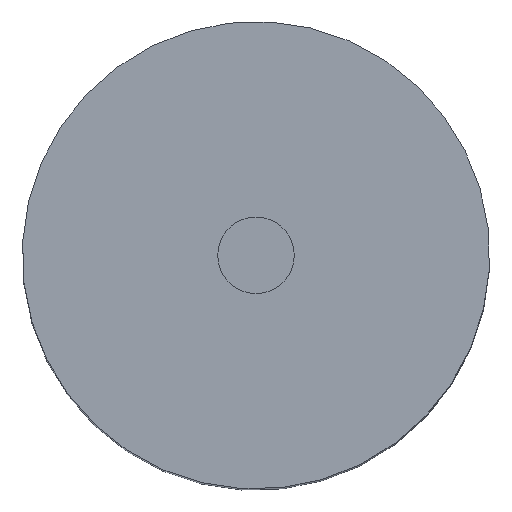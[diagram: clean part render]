
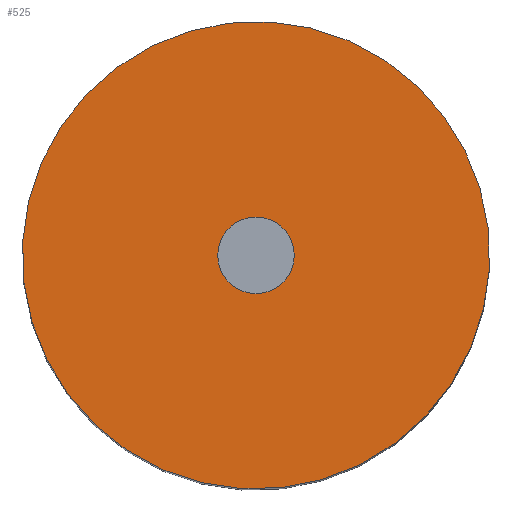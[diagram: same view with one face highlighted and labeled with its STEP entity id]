
A CAD part, top view. The second image highlights one B-rep face of the part: STEP entity #525.
In plain terms, the highlighted planar face has unit normal (0, 0, 1).
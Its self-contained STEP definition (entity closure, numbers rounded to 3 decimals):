
#23=FACE_BOUND('',#118,.T.);
#37=PLANE('',#607);
#75=FACE_OUTER_BOUND('',#117,.T.);
#117=EDGE_LOOP('',(#384));
#118=EDGE_LOOP('',(#385));
#197=CIRCLE('',#597,4.5);
#198=CIRCLE('',#600,27.5);
#242=VERTEX_POINT('',#882);
#243=VERTEX_POINT('',#887);
#291=EDGE_CURVE('',#242,#242,#197,.T.);
#292=EDGE_CURVE('',#243,#243,#198,.T.);
#384=ORIENTED_EDGE('',*,*,#292,.T.);
#385=ORIENTED_EDGE('',*,*,#291,.F.);
#525=ADVANCED_FACE('',(#75,#23),#37,.F.);
#597=AXIS2_PLACEMENT_3D('',#884,#710,#711);
#600=AXIS2_PLACEMENT_3D('',#888,#716,#717);
#607=AXIS2_PLACEMENT_3D('',#901,#732,#733);
#710=DIRECTION('center_axis',(0.,0.,
1.));
#711=DIRECTION('ref_axis',(-1.,0.,0.));
#716=DIRECTION('center_axis',(0.,0.,
1.));
#717=DIRECTION('ref_axis',(0.394,-0.919,0.));
#732=DIRECTION('center_axis',(0.,0.,
-1.));
#733=DIRECTION('ref_axis',(0.919,0.394,0.));
#882=CARTESIAN_POINT('',(-0.835,-4.512,-41.117));
#884=CARTESIAN_POINT('Origin',(-5.335,-4.512,-41.117));
#887=CARTESIAN_POINT('',(13.581,15.448,-41.117));
#888=CARTESIAN_POINT('Origin',(-5.335,-4.512,-41.117));
#901=CARTESIAN_POINT('Origin',(-5.335,-4.512,-41.117));
